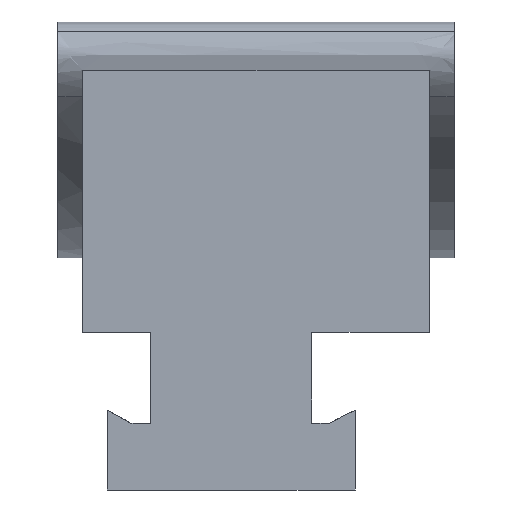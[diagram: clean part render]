
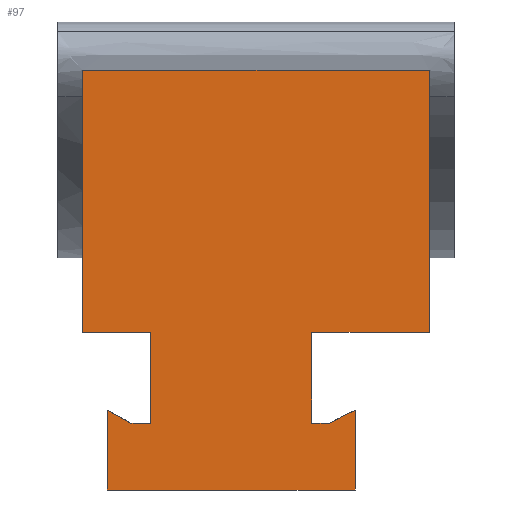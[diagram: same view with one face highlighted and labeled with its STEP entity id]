
A CAD part, left-side view. The second image highlights one B-rep face of the part: STEP entity #97.
In plain terms, the highlighted planar face has unit normal (-1, 0, 0).
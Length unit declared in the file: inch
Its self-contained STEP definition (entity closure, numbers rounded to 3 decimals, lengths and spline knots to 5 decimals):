
#97=ADVANCED_FACE('',(#214),#215,.T.);
#214=FACE_OUTER_BOUND('',#380,.T.);
#215=PLANE('',#381);
#380=EDGE_LOOP('',(#628,#629,#630,#631,#632,#633,#634,#635,#636,#637,#638,#639,#640,#641));
#381=AXIS2_PLACEMENT_3D('',#642,#643,#644);
#628=ORIENTED_EDGE('',*,*,#908,.T.);
#629=ORIENTED_EDGE('',*,*,#887,.T.);
#630=ORIENTED_EDGE('',*,*,#966,.T.);
#631=ORIENTED_EDGE('',*,*,#967,.T.);
#632=ORIENTED_EDGE('',*,*,#968,.T.);
#633=ORIENTED_EDGE('',*,*,#924,.T.);
#634=ORIENTED_EDGE('',*,*,#934,.T.);
#635=ORIENTED_EDGE('',*,*,#930,.T.);
#636=ORIENTED_EDGE('',*,*,#969,.T.);
#637=ORIENTED_EDGE('',*,*,#970,.T.);
#638=ORIENTED_EDGE('',*,*,#971,.T.);
#639=ORIENTED_EDGE('',*,*,#972,.T.);
#640=ORIENTED_EDGE('',*,*,#973,.T.);
#641=ORIENTED_EDGE('',*,*,#974,.T.);
#642=CARTESIAN_POINT('',(0.,1.37531,1.06878));
#643=DIRECTION('',(-1.0,0.0,0.0));
#644=DIRECTION('',(0.0,0.0,-1.0));
#887=EDGE_CURVE('',#1057,#1055,#1058,.T.);
#908=EDGE_CURVE('',#1085,#1057,#1093,.T.);
#924=EDGE_CURVE('',#1118,#1119,#1120,.T.);
#930=EDGE_CURVE('',#1130,#1128,#1131,.T.);
#934=EDGE_CURVE('',#1119,#1130,#1136,.T.);
#966=EDGE_CURVE('',#1055,#1188,#1189,.T.);
#967=EDGE_CURVE('',#1188,#1190,#1191,.T.);
#968=EDGE_CURVE('',#1190,#1118,#1192,.T.);
#969=EDGE_CURVE('',#1128,#1193,#1194,.T.);
#970=EDGE_CURVE('',#1193,#1195,#1196,.T.);
#971=EDGE_CURVE('',#1195,#1197,#1198,.T.);
#972=EDGE_CURVE('',#1197,#1199,#1200,.T.);
#973=EDGE_CURVE('',#1199,#1201,#1202,.T.);
#974=EDGE_CURVE('',#1201,#1085,#1203,.T.);
#1055=VERTEX_POINT('',#1311);
#1057=VERTEX_POINT('',#1314);
#1058=LINE('',#1315,#1316);
#1085=VERTEX_POINT('',#1373);
#1093=B_SPLINE_CURVE_WITH_KNOTS('',3,(#1394,#1395,#1396,#1397),.UNSPECIFIED.,.F.,.F.,(4,4),(0.0,1.85),.UNSPECIFIED.);
#1118=VERTEX_POINT('',#1443);
#1119=VERTEX_POINT('',#1444);
#1120=LINE('',#1445,#1446);
#1128=VERTEX_POINT('',#1456);
#1130=VERTEX_POINT('',#1459);
#1131=LINE('',#1460,#1461);
#1136=LINE('',#1468,#1469);
#1188=VERTEX_POINT('',#1539);
#1189=LINE('',#1540,#1541);
#1190=VERTEX_POINT('',#1542);
#1191=LINE('',#1543,#1544);
#1192=LINE('',#1545,#1546);
#1193=VERTEX_POINT('',#1547);
#1194=LINE('',#1548,#1549);
#1195=VERTEX_POINT('',#1550);
#1196=LINE('',#1551,#1552);
#1197=VERTEX_POINT('',#1553);
#1198=LINE('',#1554,#1555);
#1199=VERTEX_POINT('',#1556);
#1200=LINE('',#1557,#1558);
#1201=VERTEX_POINT('',#1559);
#1202=LINE('',#1560,#1561);
#1203=LINE('',#1562,#1563);
#1311=CARTESIAN_POINT('',(0.,1.37531,0.79518));
#1314=CARTESIAN_POINT('',(0.,1.37531,2.11667));
#1315=CARTESIAN_POINT('',(0.,1.37531,2.13757));
#1316=VECTOR('',#1718,1.0);
#1373=CARTESIAN_POINT('',(0.,-0.37469,2.11667));
#1394=CARTESIAN_POINT('',(0.,-0.42469,2.11667));
#1395=CARTESIAN_POINT('',(0.,0.19198,2.11667));
#1396=CARTESIAN_POINT('',(0.,0.80864,2.11667));
#1397=CARTESIAN_POINT('',(0.,1.42531,2.11667));
#1443=CARTESIAN_POINT('',(0.0,1.13103,0.33676));
#1444=CARTESIAN_POINT('',(0.0,1.25,0.40257));
#1445=CARTESIAN_POINT('',(0.0,1.40933,0.49071));
#1446=VECTOR('',#1729,1.0);
#1456=CARTESIAN_POINT('',(0.,0.,0.0));
#1459=CARTESIAN_POINT('',(0.,1.25,0.0));
#1460=CARTESIAN_POINT('',(0.,1.37531,0.0));
#1461=VECTOR('',#1736,1.0);
#1468=CARTESIAN_POINT('',(0.0,1.25,0.62381));
#1469=VECTOR('',#1739,1.0);
#1539=CARTESIAN_POINT('',(0.0,1.03149,0.79518));
#1540=CARTESIAN_POINT('',(0.0,1.35186,0.79518));
#1541=VECTOR('',#1782,1.0);
#1542=CARTESIAN_POINT('',(0.0,1.03149,0.33676));
#1543=CARTESIAN_POINT('',(0.0,1.03149,0.81738));
#1544=VECTOR('',#1783,1.0);
#1545=CARTESIAN_POINT('',(0.0,1.22829,0.33676));
#1546=VECTOR('',#1784,1.0);
#1547=CARTESIAN_POINT('',(0.0,0.,0.40257));
#1548=CARTESIAN_POINT('',(0.0,0.,0.62381));
#1549=VECTOR('',#1785,1.0);
#1550=CARTESIAN_POINT('',(0.0,0.13103,0.33676));
#1551=CARTESIAN_POINT('',(0.,0.4483,0.17742));
#1552=VECTOR('',#1786,1.0);
#1553=CARTESIAN_POINT('',(0.0,0.21899,0.33676));
#1554=CARTESIAN_POINT('',(0.0,0.77516,0.33676));
#1555=VECTOR('',#1787,1.0);
#1556=CARTESIAN_POINT('',(0.0,0.21899,0.79518));
#1557=CARTESIAN_POINT('',(0.0,0.21899,0.81738));
#1558=VECTOR('',#1788,1.0);
#1559=CARTESIAN_POINT('',(0.0,-0.37469,0.79518));
#1560=CARTESIAN_POINT('',(0.0,0.64873,0.79518));
#1561=VECTOR('',#1789,1.0);
#1562=CARTESIAN_POINT('',(0.,-0.37469,2.13757));
#1563=VECTOR('',#1790,1.0);
#1718=DIRECTION('',(0.0,0.0,-1.0));
#1729=DIRECTION('',(0.0,0.875,0.484));
#1736=DIRECTION('',(0.0,-1.0,0.0));
#1739=DIRECTION('',(0.0,0.0,-1.0));
#1782=DIRECTION('',(0.0,-1.0,0.0));
#1783=DIRECTION('',(0.0,0.0,-1.0));
#1784=DIRECTION('',(-0.0,1.0,-0.0));
#1785=DIRECTION('',(0.0,0.0,1.0));
#1786=DIRECTION('',(-0.0,0.894,-0.449));
#1787=DIRECTION('',(-0.0,1.0,-0.0));
#1788=DIRECTION('',(0.0,0.0,1.0));
#1789=DIRECTION('',(0.0,-1.0,0.0));
#1790=DIRECTION('',(0.0,0.0,1.0));
